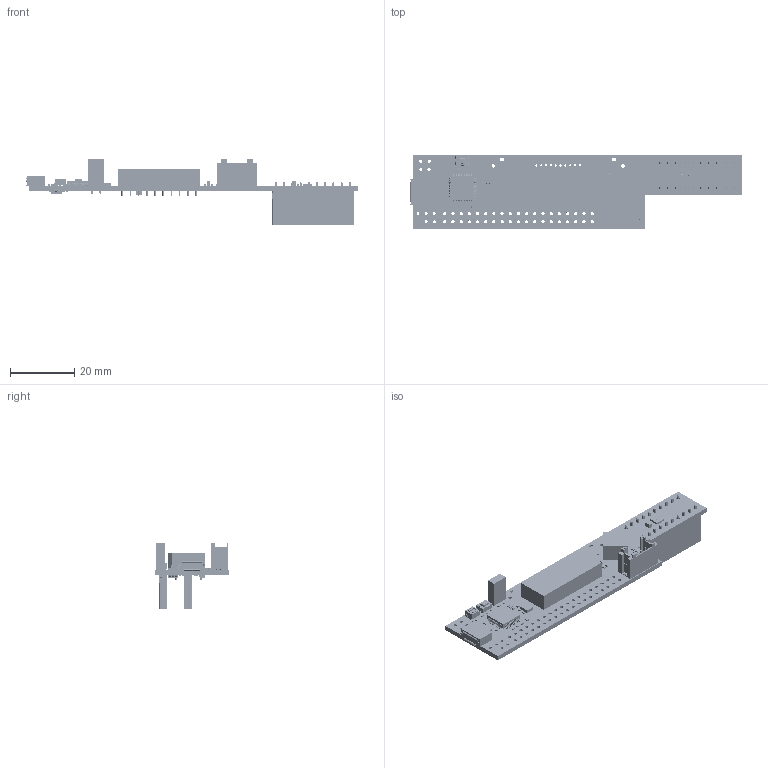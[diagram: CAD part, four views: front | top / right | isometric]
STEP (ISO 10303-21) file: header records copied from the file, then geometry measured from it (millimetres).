
FILE_DESCRIPTION(('Open CASCADE Model'),'2;1');
FILE_NAME('Open CASCADE Shape Model','2021-06-21T14:18:07',('Author'),( 'Open CASCADE'),'Open CASCADE STEP processor 6.8','Open CASCADE 6.8' ,'Unknown');
FILE_SCHEMA(('AUTOMOTIVE_DESIGN { 1 0 10303 214 1 1 1 1 }'));
Length unit declared in the file: millimetre
Products named in the file (217): PCB; Board; Open CASCADE STEP translator 6.8 1.1.1; C11; C0402; 6250083520; Extruded; U5; SOT-666; 6657352992; HW2; 6249348480; C2; 6250072320; U2; 0201; 6657680432; SB1; R0402; 6249715952; SB2; CN4; 6658069728; 6658069648; 6657677712; 6657676992; 6657676752; 6657676512; 6657676272; 6657676032; 6657675792; 6657675392; 6657674672; 6657673952; 6657673712; 6657673472; 6657673232; 6657672832; 6657672432; 6657672192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
Assembly tree (364 placements, depth 4):
  PCB
    Board
      Open CASCADE STEP translator 6.8 1.1.1
    C11
      C0402
      6250083520
        Extruded
    U5
      SOT-666
      6657352992
        Extruded
    HW2
      6249348480
        Extruded
    C2
      C0402
      6250072320
        Extruded
    U2
      0201
      6657680432
        Extruded
    SB1
      R0402
      6249715952
        Extruded
    SB2
      R0402
      6249715952
        Extruded
    CN4
      6658069728
        Extruded
      6658069648
        Extruded
      6657677712  x4
        Extruded
      6657676992
        Extruded
      6657676752
        Extruded
      6657676512  x2
        Extruded
      6657676272
        Extruded
      6657676032
        Extruded
      6657675792  x2
        Extruded
      6657675392  x4
        Extruded
      6657674672  x4
        Extruded
      6657673952
        Extruded
      6657673712
        Extruded
      6657673472
        Extruded
      6657673232
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Bounding box: 103.01 x 23 x 20.65 mm (x, y, z)
Volume: 7967.3 mm3; surface area: 13267.2 mm2
Topology: 312 solids, 312 shells, 14334 faces, 33608 edges, 18985 vertices
Faces by surface type: plane 5322, cylinder 4763, bspline 2639, sphere 1190, torus 200, revolution 128, cone 92
Full cylindrical faces by diameter (mm): 0.15 x1, 0.7 x10, 0.8 x1, 0.9 x7, 1 x84, 1.1 x3
Entity records: 146864 total; most frequent: CARTESIAN_POINT 37774, ORIENTED_EDGE 18956, DIRECTION 18135, EDGE_CURVE 9478, LINE 7011, VECTOR 7011, VERTEX_POINT 6041, AXIS2_PLACEMENT_3D 5558
